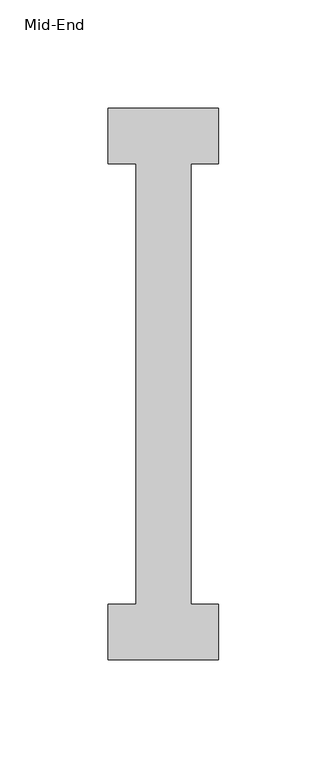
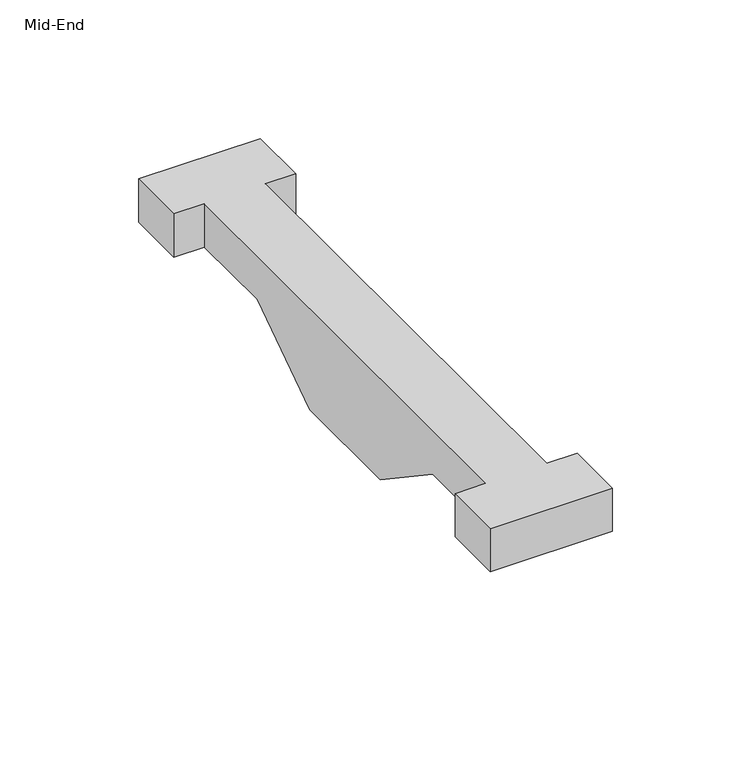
"""IFC4 building model written with IfcOpenShell, lengths in millimetres: furniture geometry, HermanMiller_ActionOffice_AO460-AO464_TransactionSurfaceSupport : Mid-End."""

from ifc_helpers import new_model, si_unit, origin, place, context, project, spatial, faceted_brep, source, transform, mapped, element, save


def mid_end_944f84f5(model_context):
    return source(origin(), model_context, "Body", "Brep", [
        faceted_brep([(1524.0, 117.475, 946.1499985), (1524.0, 92.075, 946.1499985), (1524.0, 92.075, 965.2), (1524.0, 117.475, 965.2), (1524.0, -136.525, 965.2), (1524.0, -111.124997, 965.2), (1524.0, -111.124997, 946.1499985), (1524.0, -136.525, 946.1499985), (1574.8, 117.475, 946.1499985), (1574.8, 117.475, 965.2), (1574.8, 92.075, 965.2), (1574.8, 92.075, 946.1499985), (1574.8, -136.525, 965.2), (1574.8, -136.525, 946.1499985), (1574.8, -111.124997, 946.1499985), (1574.8, -111.124997, 965.2), (1562.0999996, 92.075, 946.1499985), (1562.0999996, 53.975, 946.1499985), (1536.6999989, 53.975, 946.1499985), (1536.6999989, 92.075, 946.1499985), (1536.6999989, 92.075, 965.2), (1562.0999996, 92.075, 965.2), (1536.6999989, -111.124997, 965.2), (1562.0999996, -111.124997, 965.2), (1536.6999989, -111.124997, 946.1499985), (1562.0999996, -111.124997, 946.1499985), (1536.6999989, -73.024997, 946.1499985), (1562.0999996, -73.024997, 946.1499985), (1536.6999989, 15.875, 920.75), (1536.6999989, -34.9250015, 920.75), (1562.0999996, -34.9250015, 920.75), (1562.0999996, 15.875, 920.75)], [[[0, 1, 2, 3]], [[4, 5, 6, 7]], [[8, 9, 10, 11]], [[12, 13, 14, 15]], [[1, 0, 8, 11, 16, 17, 18, 19]], [[2, 1, 19, 20]], [[11, 10, 21, 16]], [[3, 2, 20, 22, 5, 4, 12, 15, 23, 21, 10, 9]], [[0, 3, 9, 8]], [[6, 5, 22, 24]], [[15, 14, 25, 23]], [[7, 6, 24, 26, 27, 25, 14, 13]], [[4, 7, 13, 12]], [[22, 20, 19, 18, 28, 29, 26, 24]], [[25, 27, 30, 31, 17, 16, 21, 23]], [[28, 18, 17, 31]], [[29, 28, 31, 30]], [[26, 29, 30, 27]]]),
    ])


if __name__ == "__main__":
    model = new_model("IFC4")
    model_context = context("Model", 3, world=origin())
    ifc_project = project(units=[si_unit("LENGTHUNIT", "METRE", prefix="MILLI")], contexts=[model_context])
    site = spatial("IfcSite", under=ifc_project)
    building = spatial("IfcBuilding", under=site)
    placement = place(None, origin())
    mid_end_shape = mid_end_944f84f5(model_context)
    element("IfcFurniture", 1, ObjectType="HermanMiller_ActionOffice_AO460-AO464_TransactionSurfaceSupport : Mid-End", at=placement, inside=building, context=model_context, shape_type="MappedRepresentation", body=[
        mapped(mid_end_shape, transform((0.0, 0.0, 0.0), x_axis=(1.0, 0.0, 0.0), y_axis=(0.0, 1.0, 0.0), z_axis=(0.0, 0.0, 1.0))),
    ])
    save(model, "model.ifc")
